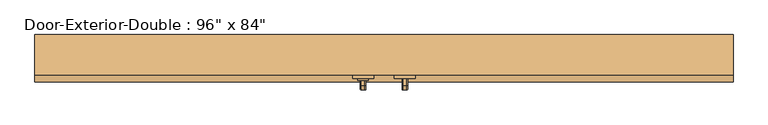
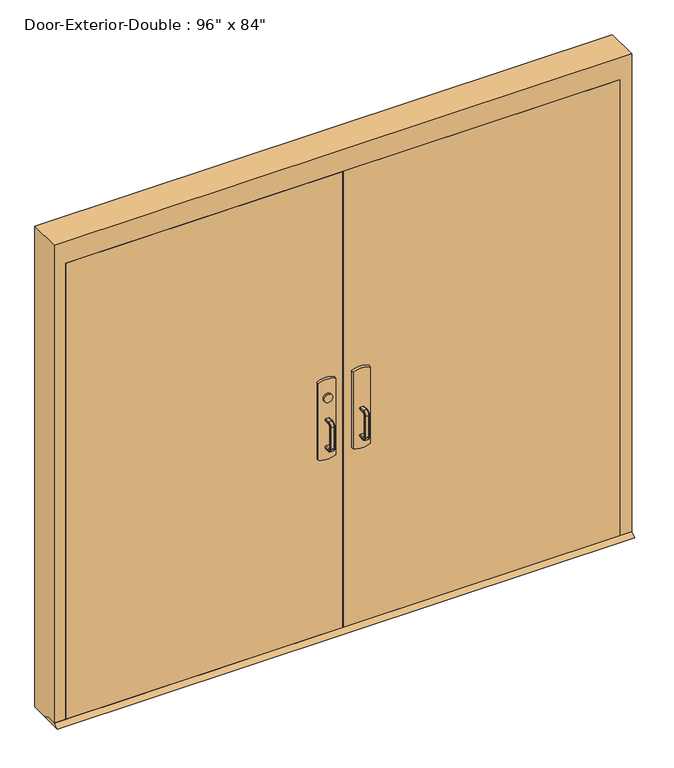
"""IFC4 building model written with IfcOpenShell, lengths in millimetres: door geometry."""

from ifc_helpers import new_model, si_unit, point, frame, frame_2d, origin, place, context, project, spatial, polyline, circle_curve, ellipse_curve, trimmed, segment, composite_curve, outline, extrude, faceted_brep, source, transform, mapped, element, save
from ifc_brep_helpers import plane_surface, cylinder_surface, revolved_surface, advanced_brep


def door_381a2cf9(model_context):
    return source(origin(), model_context, "Body", "SolidModel", [
        extrude(outline(polyline([(-778.9333333, -74.6125), (-76.2, -74.6125), (-76.2, -80.9625), (-778.9333333, -80.9625), (-778.9333333, -74.6125)])), frame((0.0, 0.0, 990.6), z_axis=(0.0, 0.0, 1.0), x_axis=(1.0, 0.0, 0.0)), (0.0, 0.0, 1.0), 50.8),
        advanced_brep(
        [(-12.7, -80.9625, 1041.4), (-12.7, -80.9625, 990.6), (-76.2, -80.9625, 990.6), (-1130.3, -80.9625, 990.6), (-1130.3, -80.9625, 1041.4), (-76.2, -80.9625, 1041.4), (-1130.3, -112.7125, 1041.4), (-1130.3, -112.7125, 990.6), (-76.2, -112.7125, 990.6), (-76.2, -112.7125, 927.1), (-57.15, -112.7125, 908.05), (-31.75, -112.7125, 908.05), (-12.7, -112.7125, 927.1), (-12.7, -112.7125, 1104.9), (-31.75, -112.7125, 1123.95), (-57.15, -112.7125, 1123.95), (-76.2, -112.7125, 1104.9), (-76.2, -112.7125, 1041.4), (-76.2, -84.1377467, 1041.4), (-12.7, -84.1377467, 1041.4), (-12.7, -89.1479269, 1104.9), (-12.7, -89.1479269, 927.1), (-12.7, -84.1377467, 990.6), (-76.2, -84.1377467, 990.6), (-76.2, -89.1479269, 1104.9), (-76.2, -89.1479269, 927.1), (-31.75, -90.650981, 1123.95), (-57.15, -90.650981, 1123.95), (-57.15, -90.650981, 908.05), (-31.75, -90.650981, 908.05)],
        [
            (0, 1),
            (1, 2),
            (2, 3),
            (3, 4),
            (4, 5),
            (5, 0),
            (6, 7),
            (7, 8),
            (8, 9),
            (9, 10, circle_curve(frame((-57.15, -112.7125, 927.1), z_axis=(0.0, -1.0, 0.0), x_axis=(-1.0, 0.0, 0.0)), 19.05)),
            (10, 11),
            (11, 12, circle_curve(frame((-31.75, -112.7125, 927.1), z_axis=(0.0, -1.0, 0.0), x_axis=(-1.0, 0.0, 0.0)), 19.05)),
            (12, 13),
            (13, 14, circle_curve(frame((-31.75, -112.7125, 1104.9), z_axis=(0.0, -1.0, 0.0), x_axis=(-1.0, 0.0, 0.0)), 19.05)),
            (14, 15),
            (15, 16, circle_curve(frame((-57.15, -112.7125, 1104.9), z_axis=(0.0, -1.0, 0.0), x_axis=(-1.0, 0.0, 0.0)), 19.05)),
            (16, 17),
            (17, 6),
            (4, 6),
            (17, 18),
            (18, 19),
            (19, 0),
            (19, 20),
            (20, 13),
            (12, 21),
            (21, 22),
            (22, 1),
            (7, 3),
            (22, 23),
            (23, 8),
            (16, 24),
            (24, 18),
            (23, 25),
            (25, 9),
            (14, 26),
            (26, 27),
            (27, 15),
            (10, 28),
            (28, 29),
            (29, 11),
            (25, 28, ellipse_curve(frame((-57.15, -89.1479269, 927.1), z_axis=(0.0, -0.9969018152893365, 0.07865602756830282), x_axis=(0.0, 0.07865602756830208, 0.9969018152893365)), 19.1092038, 19.05)),
            (27, 24, ellipse_curve(frame((-57.15, -89.1479269, 1104.9), z_axis=(0.0, -0.9969018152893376, -0.07865602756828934), x_axis=(0.0, 0.078656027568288, -0.9969018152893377)), 19.1092038, 19.05)),
            (20, 26, ellipse_curve(frame((-31.75, -89.1479269, 1104.9), z_axis=(0.0, -0.9969018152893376, -0.07865602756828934), x_axis=(0.0, 0.078656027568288, -0.9969018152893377)), 19.1092038, 19.05)),
            (29, 21, ellipse_curve(frame((-31.75, -89.1479269, 927.1), z_axis=(0.0, -0.9969018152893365, 0.07865602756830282), x_axis=(0.0, 0.07865602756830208, 0.9969018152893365)), 19.1092038, 19.05)),
        ],
        [
            plane_surface(frame((-12.7, -80.9625, 1041.4), z_axis=(0.0, 1.0, 0.0), x_axis=(1.0, 0.0, 0.0))),
            plane_surface(frame((-12.7, -112.7125, 1041.4), z_axis=(0.0, -1.0, 0.0), x_axis=(-1.0, 0.0, 0.0))),
            plane_surface(frame((-1130.3, -80.9625, 1041.4), z_axis=(0.0, 0.0, 1.0), x_axis=(0.0, -1.0, 0.0))),
            plane_surface(frame((-12.7, -80.9625, 1041.4), z_axis=(1.0, 0.0, 0.0), x_axis=(0.0, -1.0, 0.0))),
            plane_surface(frame((-12.7, -80.9625, 990.6), z_axis=(0.0, 0.0, -1.0), x_axis=(0.0, -1.0, 0.0))),
            plane_surface(frame((-1130.3, -80.9625, 990.6), z_axis=(-1.0, 0.0, 0.0), x_axis=(0.0, -1.0, 0.0))),
            plane_surface(frame((-76.2, -84.1377467, 927.1), z_axis=(-1.0, 0.0, 0.0), x_axis=(0.0, -1.0, 0.0))),
            plane_surface(frame((-57.15, -84.1377467, 1123.95), z_axis=(0.0, 0.0, 1.0), x_axis=(0.0, -1.0, 0.0))),
            plane_surface(frame((-31.75, -84.1377467, 908.05), z_axis=(0.0, 0.0, -1.0), x_axis=(0.0, -1.0, 0.0))),
            cylinder_surface(frame((-57.15, -112.7125, 927.1), z_axis=(0.0, 1.0, 0.0), x_axis=(-1.0, 0.0, 0.0)), 19.05),
            cylinder_surface(frame((-57.15, -112.7125, 1104.9), z_axis=(0.0, 1.0, 0.0), x_axis=(-1.0, 0.0, 0.0)), 19.05),
            cylinder_surface(frame((-31.75, -112.7125, 1104.9), z_axis=(0.0, 1.0, 0.0), x_axis=(-1.0, 0.0, 0.0)), 19.05),
            cylinder_surface(frame((-31.75, -112.7125, 927.1), z_axis=(0.0, 1.0, 0.0), x_axis=(-1.0, 0.0, 0.0)), 19.05),
            plane_surface(frame((-76.2, -84.1377467, 1041.4), z_axis=(0.0, 0.9969018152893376, 0.07865602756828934), x_axis=(1.0, 0.0, 0.0))),
            plane_surface(frame((-76.2, -90.650981, 908.05), z_axis=(0.0, 0.9969018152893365, -0.07865602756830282), x_axis=(1.0, 0.0, 0.0))),
        ],
        [
            (0, [[1, 2, 3, 4, 5, 6]]),
            (1, [[7, 8, 9, 10, 11, 12, 13, 14, 15, 16, 17, 18]]),
            (2, [[19, -18, 20, 21, 22, -6, -5]]),
            (3, [[-1, -22, 23, 24, -13, 25, 26, 27]]),
            (4, [[28, -3, -2, -27, 29, 30, -8]]),
            (5, [[-4, -28, -7, -19]]),
            (6, [[-17, 31, 32, -20]]),
            (6, [[-9, -30, 33, 34]]),
            (7, [[-15, 35, 36, 37]]),
            (8, [[-11, 38, 39, 40]]),
            (9, [[-10, -34, 41, -38]]),
            (10, [[-16, -37, 42, -31]]),
            (11, [[-14, -24, 43, -35]]),
            (12, [[-12, -40, 44, -25]]),
            (13, [[-21, -32, -42, -36, -43, -23]]),
            (14, [[-26, -44, -39, -41, -33, -29]]),
        ],
    ),
        extrude(outline(polyline([(-157.1625, 12.7), (-112.7125, 12.7), (-87.3125, 0.0), (-182.5625, 0.0), (-157.1625, 12.7)])), frame((-1270.0, 0.0, 0.0), z_axis=(1.0, 0.0, 0.0), x_axis=(0.0, 1.0, 0.0)), (0.0, 0.0, 1.0), 2540.0),
        extrude(outline(polyline([(778.9333333, -74.6125), (778.9333333, -80.9625), (76.2, -80.9625), (76.2, -74.6125), (778.9333333, -74.6125)])), frame((0.0, 0.0, 990.6), z_axis=(0.0, 0.0, 1.0), x_axis=(1.0, 0.0, 0.0)), (0.0, 0.0, 1.0), 50.8),
        advanced_brep(
        [(12.7, -80.9625, 1041.4), (76.2, -80.9625, 1041.4), (1130.3, -80.9625, 1041.4), (1130.3, -80.9625, 990.6), (76.2, -80.9625, 990.6), (12.7, -80.9625, 990.6), (1130.3, -112.7125, 1041.4), (76.2, -112.7125, 1041.4), (76.2, -112.7125, 1104.9), (57.15, -112.7125, 1123.95), (31.75, -112.7125, 1123.95), (12.7, -112.7125, 1104.9), (12.7, -112.7125, 927.1), (31.75, -112.7125, 908.05), (57.15, -112.7125, 908.05), (76.2, -112.7125, 927.1), (76.2, -112.7125, 990.6), (1130.3, -112.7125, 990.6), (12.7, -84.1377467, 1041.4), (76.2, -84.1377467, 1041.4), (12.7, -84.1377467, 990.6), (12.7, -89.1479269, 927.1), (12.7, -89.1479269, 1104.9), (76.2, -84.1377467, 990.6), (76.2, -89.1479269, 1104.9), (76.2, -89.1479269, 927.1), (57.15, -90.650981, 1123.95), (31.75, -90.650981, 1123.95), (31.75, -90.650981, 908.05), (57.15, -90.650981, 908.05)],
        [
            (0, 1),
            (1, 2),
            (2, 3),
            (3, 4),
            (4, 5),
            (5, 0),
            (6, 7),
            (7, 8),
            (8, 9, circle_curve(frame((57.15, -112.7125, 1104.9), z_axis=(0.0, -1.0, 0.0), x_axis=(1.0, 0.0, 0.0)), 19.05)),
            (9, 10),
            (10, 11, circle_curve(frame((31.75, -112.7125, 1104.9), z_axis=(0.0, -1.0, 0.0), x_axis=(1.0, 0.0, 0.0)), 19.05)),
            (11, 12),
            (12, 13, circle_curve(frame((31.75, -112.7125, 927.1), z_axis=(0.0, -1.0, 0.0), x_axis=(1.0, 0.0, 0.0)), 19.05)),
            (13, 14),
            (14, 15, circle_curve(frame((57.15, -112.7125, 927.1), z_axis=(0.0, -1.0, 0.0), x_axis=(1.0, 0.0, 0.0)), 19.05)),
            (15, 16),
            (16, 17),
            (17, 6),
            (0, 18),
            (18, 19),
            (19, 7),
            (6, 2),
            (5, 20),
            (20, 21),
            (21, 12),
            (11, 22),
            (22, 18),
            (16, 23),
            (23, 20),
            (3, 17),
            (19, 24),
            (24, 8),
            (15, 25),
            (25, 23),
            (9, 26),
            (26, 27),
            (27, 10),
            (13, 28),
            (28, 29),
            (29, 14),
            (29, 25, ellipse_curve(frame((57.15, -89.1479269, 927.1), z_axis=(0.0, -0.9969018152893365, 0.07865602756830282), x_axis=(0.0, 0.07865602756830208, 0.9969018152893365)), 19.1092038, 19.05)),
            (24, 26, ellipse_curve(frame((57.15, -89.1479269, 1104.9), z_axis=(0.0, -0.9969018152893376, -0.07865602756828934), x_axis=(0.0, 0.078656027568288, -0.9969018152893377)), 19.1092038, 19.05)),
            (27, 22, ellipse_curve(frame((31.75, -89.1479269, 1104.9), z_axis=(0.0, -0.9969018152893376, -0.07865602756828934), x_axis=(0.0, 0.078656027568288, -0.9969018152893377)), 19.1092038, 19.05)),
            (21, 28, ellipse_curve(frame((31.75, -89.1479269, 927.1), z_axis=(0.0, -0.9969018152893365, 0.07865602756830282), x_axis=(0.0, 0.07865602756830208, 0.9969018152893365)), 19.1092038, 19.05)),
        ],
        [
            plane_surface(frame((12.7, -80.9625, 1041.4), z_axis=(0.0, 1.0, 0.0), x_axis=(-1.0, 0.0, 0.0))),
            plane_surface(frame((12.7, -112.7125, 1041.4), z_axis=(0.0, -1.0, 0.0), x_axis=(1.0, 0.0, 0.0))),
            plane_surface(frame((1130.3, -80.9625, 1041.4), z_axis=(0.0, 0.0, 1.0), x_axis=(0.0, -1.0, 0.0))),
            plane_surface(frame((12.7, -80.9625, 1041.4), z_axis=(-1.0, 0.0, 0.0), x_axis=(0.0, -1.0, 0.0))),
            plane_surface(frame((12.7, -80.9625, 990.6), z_axis=(0.0, 0.0, -1.0), x_axis=(0.0, -1.0, 0.0))),
            plane_surface(frame((1130.3, -80.9625, 990.6), z_axis=(1.0, 0.0, 0.0), x_axis=(0.0, -1.0, 0.0))),
            plane_surface(frame((76.2, -84.1377467, 927.1), z_axis=(1.0, 0.0, 0.0), x_axis=(0.0, -1.0, 0.0))),
            plane_surface(frame((57.15, -84.1377467, 1123.95), z_axis=(0.0, 0.0, 1.0), x_axis=(0.0, -1.0, 0.0))),
            plane_surface(frame((31.75, -84.1377467, 908.05), z_axis=(0.0, 0.0, -1.0), x_axis=(0.0, -1.0, 0.0))),
            cylinder_surface(frame((57.15, -112.7125, 927.1), z_axis=(0.0, 1.0, 0.0), x_axis=(1.0, 0.0, 0.0)), 19.05),
            cylinder_surface(frame((57.15, -112.7125, 1104.9), z_axis=(0.0, 1.0, 0.0), x_axis=(1.0, 0.0, 0.0)), 19.05),
            cylinder_surface(frame((31.75, -112.7125, 1104.9), z_axis=(0.0, 1.0, 0.0), x_axis=(1.0, 0.0, 0.0)), 19.05),
            cylinder_surface(frame((31.75, -112.7125, 927.1), z_axis=(0.0, 1.0, 0.0), x_axis=(1.0, 0.0, 0.0)), 19.05),
            plane_surface(frame((76.2, -84.1377467, 1041.4), z_axis=(0.0, 0.9969018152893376, 0.07865602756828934), x_axis=(-1.0, 0.0, 0.0))),
            plane_surface(frame((76.2, -90.650981, 908.05), z_axis=(0.0, 0.9969018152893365, -0.07865602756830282), x_axis=(-1.0, 0.0, 0.0))),
        ],
        [
            (0, [[1, 2, 3, 4, 5, 6]]),
            (1, [[7, 8, 9, 10, 11, 12, 13, 14, 15, 16, 17, 18]]),
            (2, [[-2, -1, 19, 20, 21, -7, 22]]),
            (3, [[23, 24, 25, -12, 26, 27, -19, -6]]),
            (4, [[-17, 28, 29, -23, -5, -4, 30]]),
            (5, [[-22, -18, -30, -3]]),
            (6, [[-21, 31, 32, -8]]),
            (6, [[33, 34, -28, -16]]),
            (7, [[35, 36, 37, -10]]),
            (8, [[38, 39, 40, -14]]),
            (9, [[-40, 41, -33, -15]]),
            (10, [[-32, 42, -35, -9]]),
            (11, [[-37, 43, -26, -11]]),
            (12, [[-25, 44, -38, -13]]),
            (13, [[-27, -43, -36, -42, -31, -20]]),
            (14, [[-29, -34, -41, -39, -44, -24]]),
        ],
    ),
        advanced_brep(
        [(66.2, -169.8625, 1017.190625), (69.771875, -169.8625, 1020.7625), (82.628125, -169.8625, 1020.7625), (86.2, -169.8625, 1017.190625), (86.2, -169.8625, 1014.8090406), (82.6284594, -169.8625, 1011.2375), (69.771875, -169.8625, 1011.2375), (66.2, -169.8625, 1014.809375), (66.2, -169.8625, 887.809375), (66.2, -169.8625, 890.190625), (69.771875, -169.8625, 893.7625), (82.6284594, -169.8625, 893.7625), (86.2, -169.8625, 890.1909594), (86.2, -169.8625, 887.809375), (82.628125, -169.8625, 884.2375), (69.771875, -169.8625, 884.2375), (66.2, -195.2625, 1014.809375), (66.2, -206.771875, 1003.3), (66.2, -206.771875, 901.7), (66.2, -195.2625, 890.190625), (66.2, -195.2625, 887.809375), (66.2, -209.153125, 901.7), (66.2, -209.153125, 1003.3), (66.2, -195.2625, 1017.190625), (69.771875, -195.2625, 1011.2375), (82.6284594, -195.2625, 1011.2375), (86.2, -195.2625, 1014.8090406), (86.2, -195.2625, 1017.190625), (86.2, -209.153125, 1003.3), (86.2, -209.153125, 901.7), (86.2, -195.2625, 887.809375), (86.2, -195.2625, 890.1909594), (86.2, -206.7715406, 901.7), (86.2, -206.7715406, 1003.3), (82.628125, -195.2625, 1020.7625), (69.771875, -195.2625, 1020.7625), (69.771875, -203.2, 1003.3), (82.6284594, -203.2, 1003.3), (82.628125, -212.725, 1003.3), (69.771875, -212.725, 1003.3), (69.771875, -203.2, 901.7), (82.6284594, -203.2, 901.7), (82.628125, -212.725, 901.7), (69.771875, -212.725, 901.7), (69.771875, -195.2625, 893.7625), (82.6284594, -195.2625, 893.7625), (82.628125, -195.2625, 884.2375), (69.771875, -195.2625, 884.2375)],
        [
            (0, 1, circle_curve(frame((69.771875, -169.8625, 1017.190625), z_axis=(0.0, 1.0, 0.0), x_axis=(0.0, 0.0, 1.0)), 3.571875)),
            (1, 2),
            (2, 3, circle_curve(frame((82.628125, -169.8625, 1017.190625), z_axis=(0.0, 1.0, 0.0), x_axis=(0.0, 0.0, 1.0)), 3.571875)),
            (3, 4),
            (4, 5, circle_curve(frame((82.6284594, -169.8625, 1014.8090406), z_axis=(0.0, 1.0, 0.0), x_axis=(0.0, 0.0, 1.0)), 3.5715406)),
            (5, 6),
            (6, 7, circle_curve(frame((69.771875, -169.8625, 1014.809375), z_axis=(0.0, 1.0, 0.0), x_axis=(0.0, 0.0, 1.0)), 3.571875)),
            (7, 0),
            (8, 9),
            (9, 10, circle_curve(frame((69.771875, -169.8625, 890.190625), z_axis=(0.0, 1.0, 0.0), x_axis=(0.0, 0.0, -1.0)), 3.571875)),
            (10, 11),
            (11, 12, circle_curve(frame((82.6284594, -169.8625, 890.1909594), z_axis=(0.0, 1.0, 0.0), x_axis=(0.0, 0.0, -1.0)), 3.5715406)),
            (12, 13),
            (13, 14, circle_curve(frame((82.628125, -169.8625, 887.809375), z_axis=(0.0, 1.0, 0.0), x_axis=(0.0, 0.0, -1.0)), 3.571875)),
            (14, 15),
            (15, 8, circle_curve(frame((69.771875, -169.8625, 887.809375), z_axis=(0.0, 1.0, 0.0), x_axis=(0.0, 0.0, -1.0)), 3.571875)),
            (7, 16),
            (16, 17, circle_curve(frame((66.2, -195.2625, 1003.3), z_axis=(1.0, 0.0, 0.0), x_axis=(0.0, 0.0, 1.0)), 11.509375)),
            (17, 18),
            (18, 19, circle_curve(frame((66.2, -195.2625, 901.7), z_axis=(1.0, 0.0, 0.0), x_axis=(0.0, -1.0, 0.0)), 11.509375)),
            (19, 9),
            (8, 20),
            (20, 21, circle_curve(frame((66.2, -195.2625, 901.7), z_axis=(-1.0, 0.0, 0.0), x_axis=(0.0, -1.0, 0.0)), 13.890625)),
            (21, 22),
            (22, 23, circle_curve(frame((66.2, -195.2625, 1003.3), z_axis=(-1.0, 0.0, 0.0), x_axis=(0.0, 0.0, 1.0)), 13.890625)),
            (23, 0),
            (6, 24),
            (24, 16, circle_curve(frame((69.771875, -195.2625, 1014.809375), z_axis=(0.0, 1.0, 0.0), x_axis=(0.0, 0.0, 1.0)), 3.571875)),
            (5, 25),
            (25, 24),
            (4, 26),
            (26, 25, circle_curve(frame((82.6284594, -195.2625, 1014.8090406), z_axis=(0.0, 1.0, 0.0), x_axis=(0.0, 0.0, 1.0)), 3.5715406)),
            (3, 27),
            (27, 28, circle_curve(frame((86.2, -195.2625, 1003.3), z_axis=(1.0, 0.0, 0.0), x_axis=(0.0, 0.0, 1.0)), 13.890625)),
            (28, 29),
            (29, 30, circle_curve(frame((86.2, -195.2625, 901.7), z_axis=(1.0, 0.0, 0.0), x_axis=(0.0, -1.0, 0.0)), 13.890625)),
            (30, 13),
            (12, 31),
            (31, 32, circle_curve(frame((86.2, -195.2625, 901.7), z_axis=(-1.0, 0.0, 0.0), x_axis=(0.0, -1.0, 0.0)), 11.5090406)),
            (32, 33),
            (33, 26, circle_curve(frame((86.2, -195.2625, 1003.3), z_axis=(-1.0, 0.0, 0.0), x_axis=(0.0, 0.0, 1.0)), 11.5090406)),
            (2, 34),
            (34, 27, circle_curve(frame((82.628125, -195.2625, 1017.190625), z_axis=(0.0, 1.0, 0.0), x_axis=(0.0, 0.0, 1.0)), 3.571875)),
            (1, 35),
            (35, 34),
            (23, 35, circle_curve(frame((69.771875, -195.2625, 1017.190625), z_axis=(0.0, 1.0, 0.0), x_axis=(0.0, 0.0, 1.0)), 3.571875)),
            (36, 17, circle_curve(frame((69.771875, -206.771875, 1003.3), z_axis=(0.0, 0.0, 1.0), x_axis=(0.0, -1.0, 0.0)), 3.571875)),
            (24, 36, circle_curve(frame((69.771875, -195.2625, 1003.3), z_axis=(1.0, 0.0, 0.0), x_axis=(0.0, 0.0, 1.0)), 7.9375)),
            (37, 36),
            (25, 37, circle_curve(frame((82.6284594, -195.2625, 1003.3), z_axis=(1.0, 0.0, 0.0), x_axis=(0.0, 0.0, 1.0)), 7.9375)),
            (33, 37, circle_curve(frame((82.6284594, -206.7715406, 1003.3), z_axis=(0.0, 0.0, 1.0), x_axis=(0.0, -1.0, 0.0)), 3.5715406)),
            (38, 28, circle_curve(frame((82.628125, -209.153125, 1003.3), z_axis=(0.0, 0.0, 1.0), x_axis=(0.0, -1.0, 0.0)), 3.571875)),
            (34, 38, circle_curve(frame((82.628125, -195.2625, 1003.3), z_axis=(1.0, 0.0, 0.0), x_axis=(0.0, 0.0, 1.0)), 17.4625)),
            (39, 38),
            (35, 39, circle_curve(frame((69.771875, -195.2625, 1003.3), z_axis=(1.0, 0.0, 0.0), x_axis=(0.0, 0.0, 1.0)), 17.4625)),
            (22, 39, circle_curve(frame((69.771875, -209.153125, 1003.3), z_axis=(0.0, 0.0, 1.0), x_axis=(0.0, -1.0, 0.0)), 3.571875)),
            (36, 40),
            (40, 18, circle_curve(frame((69.771875, -206.771875, 901.7), z_axis=(0.0, 0.0, 1.0), x_axis=(0.0, -1.0, 0.0)), 3.571875)),
            (37, 41),
            (41, 40),
            (32, 41, circle_curve(frame((82.6284594, -206.7715406, 901.7), z_axis=(0.0, 0.0, 1.0), x_axis=(0.0, -1.0, 0.0)), 3.5715406)),
            (38, 42),
            (42, 29, circle_curve(frame((82.628125, -209.153125, 901.7), z_axis=(0.0, 0.0, 1.0), x_axis=(0.0, -1.0, 0.0)), 3.571875)),
            (39, 43),
            (43, 42),
            (21, 43, circle_curve(frame((69.771875, -209.153125, 901.7), z_axis=(0.0, 0.0, 1.0), x_axis=(0.0, -1.0, 0.0)), 3.571875)),
            (44, 19, circle_curve(frame((69.771875, -195.2625, 890.190625), z_axis=(0.0, -1.0, 0.0), x_axis=(0.0, 0.0, -1.0)), 3.571875)),
            (40, 44, circle_curve(frame((69.771875, -195.2625, 901.7), z_axis=(1.0, 0.0, 0.0), x_axis=(0.0, -1.0, 0.0)), 7.9375)),
            (45, 44),
            (41, 45, circle_curve(frame((82.6284594, -195.2625, 901.7), z_axis=(1.0, 0.0, 0.0), x_axis=(0.0, -1.0, 0.0)), 7.9375)),
            (31, 45, circle_curve(frame((82.6284594, -195.2625, 890.1909594), z_axis=(0.0, -1.0, 0.0), x_axis=(0.0, 0.0, -1.0)), 3.5715406)),
            (46, 30, circle_curve(frame((82.628125, -195.2625, 887.809375), z_axis=(0.0, -1.0, 0.0), x_axis=(0.0, 0.0, -1.0)), 3.571875)),
            (42, 46, circle_curve(frame((82.628125, -195.2625, 901.7), z_axis=(1.0, 0.0, 0.0), x_axis=(0.0, -1.0, 0.0)), 17.4625)),
            (47, 46),
            (43, 47, circle_curve(frame((69.771875, -195.2625, 901.7), z_axis=(1.0, 0.0, 0.0), x_axis=(0.0, -1.0, 0.0)), 17.4625)),
            (20, 47, circle_curve(frame((69.771875, -195.2625, 887.809375), z_axis=(0.0, -1.0, 0.0), x_axis=(0.0, 0.0, -1.0)), 3.571875)),
            (44, 10),
            (45, 11),
            (46, 14),
            (47, 15),
        ],
        [
            plane_surface(frame((76.2, -169.8625, 1016.0), z_axis=(0.0, 1.0, 0.0), x_axis=(1.0, 0.0, 0.0))),
            plane_surface(frame((76.2, -169.8625, 889.0), z_axis=(0.0, 1.0, 0.0), x_axis=(1.0, 0.0, 0.0))),
            plane_surface(frame((66.2, -169.8625, 1017.190625), z_axis=(-1.0, 0.0, 0.0), x_axis=(0.0, -1.0, 0.0))),
            cylinder_surface(frame((69.771875, -169.8625, 1014.809375), z_axis=(0.0, 1.0, 0.0), x_axis=(0.0, 0.0, 1.0)), 3.571875),
            plane_surface(frame((69.771875, -169.8625, 1011.2375), z_axis=(0.0, 0.0, -1.0), x_axis=(0.0, -1.0, 0.0))),
            cylinder_surface(frame((82.6284594, -169.8625, 1014.8090406), z_axis=(0.0, 1.0, 0.0), x_axis=(0.0, 0.0, 1.0)), 3.5715406),
            plane_surface(frame((86.2, -169.8625, 1014.8090406), z_axis=(1.0, 0.0, 0.0), x_axis=(0.0, -1.0, 0.0))),
            cylinder_surface(frame((82.628125, -169.8625, 1017.190625), z_axis=(0.0, 1.0, 0.0), x_axis=(0.0, 0.0, 1.0)), 3.571875),
            plane_surface(frame((82.628125, -169.8625, 1020.7625), z_axis=(0.0, 0.0, 1.0), x_axis=(0.0, -1.0, 0.0))),
            cylinder_surface(frame((69.771875, -169.8625, 1017.190625), z_axis=(0.0, 1.0, 0.0), x_axis=(0.0, 0.0, 1.0)), 3.571875),
            revolved_surface(trimmed(ellipse_curve(frame((69.771875, -195.2625, 1014.809375), z_axis=(0.0, -1.0, 0.0), x_axis=(0.0, 0.0, 1.0)), 3.571875, 3.571875), [point((66.2, -195.2625, 1014.809375))], [point((69.771875, -195.2625, 1011.2375))], True, "CARTESIAN"), (76.2, -195.2625, 1003.3), (-1.0, 0.0, 0.0)),
            revolved_surface(polyline([(69.771875, -195.2625, 1011.2375), (82.6284594, -195.2625, 1011.2375)]), (76.2, -195.2625, 1003.3), (-1.0, 0.0, 0.0)),
            revolved_surface(trimmed(ellipse_curve(frame((82.6284594, -195.2625, 1014.8090406), z_axis=(0.0, -1.0, 0.0), x_axis=(0.0, 0.0, 1.0)), 3.5715406, 3.5715406), [point((82.6284594, -195.2625, 1011.2375))], [point((86.2, -195.2625, 1014.8090406))], True, "CARTESIAN"), (76.2, -195.2625, 1003.3), (-1.0, 0.0, 0.0)),
            revolved_surface(trimmed(ellipse_curve(frame((82.628125, -195.2625, 1017.190625), z_axis=(0.0, -1.0, 0.0), x_axis=(0.0, 0.0, 1.0)), 3.571875, 3.571875), [point((86.2, -195.2625, 1017.190625))], [point((82.628125, -195.2625, 1020.7625))], True, "CARTESIAN"), (76.2, -195.2625, 1003.3), (-1.0, 0.0, 0.0)),
            cylinder_surface(frame((76.2, -195.2625, 1003.3), z_axis=(-1.0, 0.0, 0.0), x_axis=(0.0, 0.0, 1.0)), 17.4625),
            revolved_surface(trimmed(ellipse_curve(frame((69.771875, -195.2625, 1017.190625), z_axis=(0.0, -1.0, 0.0), x_axis=(0.0, 0.0, 1.0)), 3.571875, 3.571875), [point((69.771875, -195.2625, 1020.7625))], [point((66.2, -195.2625, 1017.190625))], True, "CARTESIAN"), (76.2, -195.2625, 1003.3), (-1.0, 0.0, 0.0)),
            cylinder_surface(frame((69.771875, -206.771875, 1003.3), z_axis=(0.0, 0.0, 1.0), x_axis=(0.0, -1.0, 0.0)), 3.571875),
            plane_surface(frame((69.771875, -203.2, 1003.3), z_axis=(0.0, 1.0, 0.0), x_axis=(0.0, 0.0, -1.0))),
            cylinder_surface(frame((82.6284594, -206.7715406, 1003.3), z_axis=(0.0, 0.0, 1.0), x_axis=(0.0, -1.0, 0.0)), 3.5715406),
            cylinder_surface(frame((82.628125, -209.153125, 1003.3), z_axis=(0.0, 0.0, 1.0), x_axis=(0.0, -1.0, 0.0)), 3.571875),
            plane_surface(frame((82.628125, -212.725, 1003.3), z_axis=(0.0, -1.0, 0.0), x_axis=(0.0, 0.0, -1.0))),
            cylinder_surface(frame((69.771875, -209.153125, 1003.3), z_axis=(0.0, 0.0, 1.0), x_axis=(0.0, -1.0, 0.0)), 3.571875),
            revolved_surface(trimmed(ellipse_curve(frame((69.771875, -206.771875, 901.7), z_axis=(0.0, 0.0, -1.0), x_axis=(0.0, -1.0, 0.0)), 3.571875, 3.571875), [point((66.2, -206.771875, 901.7))], [point((69.771875, -203.2, 901.7))], True, "CARTESIAN"), (76.2, -195.2625, 901.7), (-1.0, 0.0, 0.0)),
            revolved_surface(polyline([(69.771875, -203.2, 901.7), (82.6284594, -203.2, 901.7)]), (76.2, -195.2625, 901.7), (-1.0, 0.0, 0.0)),
            revolved_surface(trimmed(ellipse_curve(frame((82.6284594, -206.7715406, 901.7), z_axis=(0.0, 0.0, -1.0), x_axis=(0.0, -1.0, 0.0)), 3.5715406, 3.5715406), [point((82.6284594, -203.2, 901.7))], [point((86.2, -206.7715406, 901.7))], True, "CARTESIAN"), (76.2, -195.2625, 901.7), (-1.0, 0.0, 0.0)),
            revolved_surface(trimmed(ellipse_curve(frame((82.628125, -209.153125, 901.7), z_axis=(0.0, 0.0, -1.0), x_axis=(0.0, -1.0, 0.0)), 3.571875, 3.571875), [point((86.2, -209.153125, 901.7))], [point((82.628125, -212.725, 901.7))], True, "CARTESIAN"), (76.2, -195.2625, 901.7), (-1.0, 0.0, 0.0)),
            cylinder_surface(frame((76.2, -195.2625, 901.7), z_axis=(-1.0, 0.0, 0.0), x_axis=(0.0, -1.0, 0.0)), 17.4625),
            revolved_surface(trimmed(ellipse_curve(frame((69.771875, -209.153125, 901.7), z_axis=(0.0, 0.0, -1.0), x_axis=(0.0, -1.0, 0.0)), 3.571875, 3.571875), [point((69.771875, -212.725, 901.7))], [point((66.2, -209.153125, 901.7))], True, "CARTESIAN"), (76.2, -195.2625, 901.7), (-1.0, 0.0, 0.0)),
            cylinder_surface(frame((69.771875, -195.2625, 890.190625), z_axis=(0.0, -1.0, 0.0), x_axis=(0.0, 0.0, -1.0)), 3.571875),
            plane_surface(frame((69.771875, -195.2625, 893.7625), z_axis=(0.0, 0.0, 1.0), x_axis=(0.0, 1.0, 0.0))),
            cylinder_surface(frame((82.6284594, -195.2625, 890.1909594), z_axis=(0.0, -1.0, 0.0), x_axis=(0.0, 0.0, -1.0)), 3.5715406),
            cylinder_surface(frame((82.628125, -195.2625, 887.809375), z_axis=(0.0, -1.0, 0.0), x_axis=(0.0, 0.0, -1.0)), 3.571875),
            plane_surface(frame((82.628125, -195.2625, 884.2375), z_axis=(0.0, 0.0, -1.0), x_axis=(0.0, 1.0, 0.0))),
            cylinder_surface(frame((69.771875, -195.2625, 887.809375), z_axis=(0.0, -1.0, 0.0), x_axis=(0.0, 0.0, -1.0)), 3.571875),
        ],
        [
            (0, [[1, 2, 3, 4, 5, 6, 7, 8]]),
            (1, [[9, 10, 11, 12, 13, 14, 15, 16]]),
            (2, [[17, 18, 19, 20, 21, -9, 22, 23, 24, 25, 26, -8]]),
            (3, [[27, 28, -17, -7]]),
            (4, [[29, 30, -27, -6]]),
            (5, [[31, 32, -29, -5]]),
            (6, [[33, 34, 35, 36, 37, -13, 38, 39, 40, 41, -31, -4]]),
            (7, [[42, 43, -33, -3]]),
            (8, [[44, 45, -42, -2]]),
            (9, [[-26, 46, -44, -1]]),
            (10, [[47, -18, -28, 48]]),
            (11, [[49, -48, -30, 50]]),
            (12, [[51, -50, -32, -41]]),
            (13, [[52, -34, -43, 53]]),
            (14, [[54, -53, -45, 55]]),
            (15, [[56, -55, -46, -25]]),
            (16, [[57, 58, -19, -47]]),
            (17, [[59, 60, -57, -49]]),
            (18, [[-40, 61, -59, -51]]),
            (19, [[62, 63, -35, -52]]),
            (20, [[64, 65, -62, -54]]),
            (21, [[-24, 66, -64, -56]]),
            (22, [[67, -20, -58, 68]]),
            (23, [[69, -68, -60, 70]]),
            (24, [[71, -70, -61, -39]]),
            (25, [[72, -36, -63, 73]]),
            (26, [[74, -73, -65, 75]]),
            (27, [[76, -75, -66, -23]]),
            (28, [[77, -10, -21, -67]]),
            (29, [[78, -11, -77, -69]]),
            (30, [[-38, -12, -78, -71]]),
            (31, [[79, -14, -37, -72]]),
            (32, [[80, -15, -79, -74]]),
            (33, [[-22, -16, -80, -76]]),
        ],
    ),
        extrude(outline(composite_curve([segment(trimmed(circle_curve(frame_2d((1113.0338574, 76.2)), 89.3016225), [point((1193.8, 114.3))], [point((1193.8, 38.1))], False, "CARTESIAN"), True, "CONTINUOUS"), segment(polyline([(1193.8, 38.1), (838.2, 38.1)]), True, "CONTINUOUS"), segment(trimmed(circle_curve(frame_2d((918.9661426, 76.2)), 89.3016225), [point((838.2, 38.1))], [point((838.2, 114.3))], False, "CARTESIAN"), True, "CONTINUOUS"), segment(polyline([(838.2, 114.3), (1193.8, 114.3)]), True, "CONTINUOUS")], self_intersect=False)), frame((0.0, -169.8625, 0.0), z_axis=(0.0, 1.0, 0.0), x_axis=(0.0, 0.0, 1.0)), (0.0, 0.0, 1.0), 12.7),
        advanced_brep(
        [(-86.2, -169.8625, 1017.190625), (-82.628125, -169.8625, 1020.7625), (-69.771875, -169.8625, 1020.7625), (-66.2, -169.8625, 1017.190625), (-66.2, -169.8625, 1014.8090406), (-69.7715406, -169.8625, 1011.2375), (-82.628125, -169.8625, 1011.2375), (-86.2, -169.8625, 1014.809375), (-86.2, -169.8625, 887.809375), (-86.2, -169.8625, 890.190625), (-82.628125, -169.8625, 893.7625), (-69.7715406, -169.8625, 893.7625), (-66.2, -169.8625, 890.1909594), (-66.2, -169.8625, 887.809375), (-69.771875, -169.8625, 884.2375), (-82.628125, -169.8625, 884.2375), (-86.2, -195.2625, 1014.809375), (-86.2, -206.771875, 1003.3), (-86.2, -206.771875, 901.7), (-86.2, -195.2625, 890.190625), (-86.2, -195.2625, 887.809375), (-86.2, -209.153125, 901.7), (-86.2, -209.153125, 1003.3), (-86.2, -195.2625, 1017.190625), (-82.628125, -195.2625, 1011.2375), (-69.7715406, -195.2625, 1011.2375), (-66.2, -195.2625, 1014.8090406), (-66.2, -195.2625, 1017.190625), (-66.2, -209.153125, 1003.3), (-66.2, -209.153125, 901.7), (-66.2, -195.2625, 887.809375), (-66.2, -195.2625, 890.1909594), (-66.2, -206.7715406, 901.7), (-66.2, -206.7715406, 1003.3), (-69.771875, -195.2625, 1020.7625), (-82.628125, -195.2625, 1020.7625), (-82.628125, -203.2, 1003.3), (-69.7715406, -203.2, 1003.3), (-69.771875, -212.725, 1003.3), (-82.628125, -212.725, 1003.3), (-82.628125, -203.2, 901.7), (-69.7715406, -203.2, 901.7), (-69.771875, -212.725, 901.7), (-82.628125, -212.725, 901.7), (-82.628125, -195.2625, 893.7625), (-69.7715406, -195.2625, 893.7625), (-69.771875, -195.2625, 884.2375), (-82.628125, -195.2625, 884.2375)],
        [
            (0, 1, circle_curve(frame((-82.628125, -169.8625, 1017.190625), z_axis=(0.0, 1.0, 0.0), x_axis=(0.0, 0.0, 1.0)), 3.571875)),
            (1, 2),
            (2, 3, circle_curve(frame((-69.771875, -169.8625, 1017.190625), z_axis=(0.0, 1.0, 0.0), x_axis=(0.0, 0.0, 1.0)), 3.571875)),
            (3, 4),
            (4, 5, circle_curve(frame((-69.7715406, -169.8625, 1014.8090406), z_axis=(0.0, 1.0, 0.0), x_axis=(0.0, 0.0, 1.0)), 3.5715406)),
            (5, 6),
            (6, 7, circle_curve(frame((-82.628125, -169.8625, 1014.809375), z_axis=(0.0, 1.0, 0.0), x_axis=(0.0, 0.0, 1.0)), 3.571875)),
            (7, 0),
            (8, 9),
            (9, 10, circle_curve(frame((-82.628125, -169.8625, 890.190625), z_axis=(0.0, 1.0, 0.0), x_axis=(0.0, 0.0, -1.0)), 3.571875)),
            (10, 11),
            (11, 12, circle_curve(frame((-69.7715406, -169.8625, 890.1909594), z_axis=(0.0, 1.0, 0.0), x_axis=(0.0, 0.0, -1.0)), 3.5715406)),
            (12, 13),
            (13, 14, circle_curve(frame((-69.771875, -169.8625, 887.809375), z_axis=(0.0, 1.0, 0.0), x_axis=(0.0, 0.0, -1.0)), 3.571875)),
            (14, 15),
            (15, 8, circle_curve(frame((-82.628125, -169.8625, 887.809375), z_axis=(0.0, 1.0, 0.0), x_axis=(0.0, 0.0, -1.0)), 3.571875)),
            (7, 16),
            (16, 17, circle_curve(frame((-86.2, -195.2625, 1003.3), z_axis=(1.0, 0.0, 0.0), x_axis=(0.0, 0.0, 1.0)), 11.509375)),
            (17, 18),
            (18, 19, circle_curve(frame((-86.2, -195.2625, 901.7), z_axis=(1.0, 0.0, 0.0), x_axis=(0.0, -1.0, 0.0)), 11.509375)),
            (19, 9),
            (8, 20),
            (20, 21, circle_curve(frame((-86.2, -195.2625, 901.7), z_axis=(-1.0, 0.0, 0.0), x_axis=(0.0, -1.0, 0.0)), 13.890625)),
            (21, 22),
            (22, 23, circle_curve(frame((-86.2, -195.2625, 1003.3), z_axis=(-1.0, 0.0, 0.0), x_axis=(0.0, 0.0, 1.0)), 13.890625)),
            (23, 0),
            (6, 24),
            (24, 16, circle_curve(frame((-82.628125, -195.2625, 1014.809375), z_axis=(0.0, 1.0, 0.0), x_axis=(0.0, 0.0, 1.0)), 3.571875)),
            (5, 25),
            (25, 24),
            (4, 26),
            (26, 25, circle_curve(frame((-69.7715406, -195.2625, 1014.8090406), z_axis=(0.0, 1.0, 0.0), x_axis=(0.0, 0.0, 1.0)), 3.5715406)),
            (3, 27),
            (27, 28, circle_curve(frame((-66.2, -195.2625, 1003.3), z_axis=(1.0, 0.0, 0.0), x_axis=(0.0, 0.0, 1.0)), 13.890625)),
            (28, 29),
            (29, 30, circle_curve(frame((-66.2, -195.2625, 901.7), z_axis=(1.0, 0.0, 0.0), x_axis=(0.0, -1.0, 0.0)), 13.890625)),
            (30, 13),
            (12, 31),
            (31, 32, circle_curve(frame((-66.2, -195.2625, 901.7), z_axis=(-1.0, 0.0, 0.0), x_axis=(0.0, -1.0, 0.0)), 11.5090406)),
            (32, 33),
            (33, 26, circle_curve(frame((-66.2, -195.2625, 1003.3), z_axis=(-1.0, 0.0, 0.0), x_axis=(0.0, 0.0, 1.0)), 11.5090406)),
            (2, 34),
            (34, 27, circle_curve(frame((-69.771875, -195.2625, 1017.190625), z_axis=(0.0, 1.0, 0.0), x_axis=(0.0, 0.0, 1.0)), 3.571875)),
            (1, 35),
            (35, 34),
            (23, 35, circle_curve(frame((-82.628125, -195.2625, 1017.190625), z_axis=(0.0, 1.0, 0.0), x_axis=(0.0, 0.0, 1.0)), 3.571875)),
            (36, 17, circle_curve(frame((-82.628125, -206.771875, 1003.3), z_axis=(0.0, 0.0, 1.0), x_axis=(0.0, -1.0, 0.0)), 3.571875)),
            (24, 36, circle_curve(frame((-82.628125, -195.2625, 1003.3), z_axis=(1.0, 0.0, 0.0), x_axis=(0.0, 0.0, 1.0)), 7.9375)),
            (37, 36),
            (25, 37, circle_curve(frame((-69.7715406, -195.2625, 1003.3), z_axis=(1.0, 0.0, 0.0), x_axis=(0.0, 0.0, 1.0)), 7.9375)),
            (33, 37, circle_curve(frame((-69.7715406, -206.7715406, 1003.3), z_axis=(0.0, 0.0, 1.0), x_axis=(0.0, -1.0, 0.0)), 3.5715406)),
            (38, 28, circle_curve(frame((-69.771875, -209.153125, 1003.3), z_axis=(0.0, 0.0, 1.0), x_axis=(0.0, -1.0, 0.0)), 3.571875)),
            (34, 38, circle_curve(frame((-69.771875, -195.2625, 1003.3), z_axis=(1.0, 0.0, 0.0), x_axis=(0.0, 0.0, 1.0)), 17.4625)),
            (39, 38),
            (35, 39, circle_curve(frame((-82.628125, -195.2625, 1003.3), z_axis=(1.0, 0.0, 0.0), x_axis=(0.0, 0.0, 1.0)), 17.4625)),
            (22, 39, circle_curve(frame((-82.628125, -209.153125, 1003.3), z_axis=(0.0, 0.0, 1.0), x_axis=(0.0, -1.0, 0.0)), 3.571875)),
            (36, 40),
            (40, 18, circle_curve(frame((-82.628125, -206.771875, 901.7), z_axis=(0.0, 0.0, 1.0), x_axis=(0.0, -1.0, 0.0)), 3.571875)),
            (37, 41),
            (41, 40),
            (32, 41, circle_curve(frame((-69.7715406, -206.7715406, 901.7), z_axis=(0.0, 0.0, 1.0), x_axis=(0.0, -1.0, 0.0)), 3.5715406)),
            (38, 42),
            (42, 29, circle_curve(frame((-69.771875, -209.153125, 901.7), z_axis=(0.0, 0.0, 1.0), x_axis=(0.0, -1.0, 0.0)), 3.571875)),
            (39, 43),
            (43, 42),
            (21, 43, circle_curve(frame((-82.628125, -209.153125, 901.7), z_axis=(0.0, 0.0, 1.0), x_axis=(0.0, -1.0, 0.0)), 3.571875)),
            (44, 19, circle_curve(frame((-82.628125, -195.2625, 890.190625), z_axis=(0.0, -1.0, 0.0), x_axis=(0.0, 0.0, -1.0)), 3.571875)),
            (40, 44, circle_curve(frame((-82.628125, -195.2625, 901.7), z_axis=(1.0, 0.0, 0.0), x_axis=(0.0, -1.0, 0.0)), 7.9375)),
            (45, 44),
            (41, 45, circle_curve(frame((-69.7715406, -195.2625, 901.7), z_axis=(1.0, 0.0, 0.0), x_axis=(0.0, -1.0, 0.0)), 7.9375)),
            (31, 45, circle_curve(frame((-69.7715406, -195.2625, 890.1909594), z_axis=(0.0, -1.0, 0.0), x_axis=(0.0, 0.0, -1.0)), 3.5715406)),
            (46, 30, circle_curve(frame((-69.771875, -195.2625, 887.809375), z_axis=(0.0, -1.0, 0.0), x_axis=(0.0, 0.0, -1.0)), 3.571875)),
            (42, 46, circle_curve(frame((-69.771875, -195.2625, 901.7), z_axis=(1.0, 0.0, 0.0), x_axis=(0.0, -1.0, 0.0)), 17.4625)),
            (47, 46),
            (43, 47, circle_curve(frame((-82.628125, -195.2625, 901.7), z_axis=(1.0, 0.0, 0.0), x_axis=(0.0, -1.0, 0.0)), 17.4625)),
            (20, 47, circle_curve(frame((-82.628125, -195.2625, 887.809375), z_axis=(0.0, -1.0, 0.0), x_axis=(0.0, 0.0, -1.0)), 3.571875)),
            (44, 10),
            (45, 11),
            (46, 14),
            (47, 15),
        ],
        [
            plane_surface(frame((-76.2, -169.8625, 1016.0), z_axis=(0.0, 1.0, 0.0), x_axis=(1.0, 0.0, 0.0))),
            plane_surface(frame((-76.2, -169.8625, 889.0), z_axis=(0.0, 1.0, 0.0), x_axis=(1.0, 0.0, 0.0))),
            plane_surface(frame((-86.2, -169.8625, 1017.190625), z_axis=(-1.0, 0.0, 0.0), x_axis=(0.0, -1.0, 0.0))),
            cylinder_surface(frame((-82.628125, -169.8625, 1014.809375), z_axis=(0.0, 1.0, 0.0), x_axis=(0.0, 0.0, 1.0)), 3.571875),
            plane_surface(frame((-82.628125, -169.8625, 1011.2375), z_axis=(0.0, 0.0, -1.0), x_axis=(0.0, -1.0, 0.0))),
            cylinder_surface(frame((-69.7715406, -169.8625, 1014.8090406), z_axis=(0.0, 1.0, 0.0), x_axis=(0.0, 0.0, 1.0)), 3.5715406),
            plane_surface(frame((-66.2, -169.8625, 1014.8090406), z_axis=(1.0, 0.0, 0.0), x_axis=(0.0, -1.0, 0.0))),
            cylinder_surface(frame((-69.771875, -169.8625, 1017.190625), z_axis=(0.0, 1.0, 0.0), x_axis=(0.0, 0.0, 1.0)), 3.571875),
            plane_surface(frame((-69.771875, -169.8625, 1020.7625), z_axis=(0.0, 0.0, 1.0), x_axis=(0.0, -1.0, 0.0))),
            cylinder_surface(frame((-82.628125, -169.8625, 1017.190625), z_axis=(0.0, 1.0, 0.0), x_axis=(0.0, 0.0, 1.0)), 3.571875),
            revolved_surface(trimmed(ellipse_curve(frame((-82.628125, -195.2625, 1014.809375), z_axis=(0.0, -1.0, 0.0), x_axis=(0.0, 0.0, 1.0)), 3.571875, 3.571875), [point((-86.2, -195.2625, 1014.809375))], [point((-82.628125, -195.2625, 1011.2375))], True, "CARTESIAN"), (-76.2, -195.2625, 1003.3), (-1.0, 0.0, 0.0)),
            revolved_surface(polyline([(-82.628125, -195.2625, 1011.2375), (-69.7715406, -195.2625, 1011.2375)]), (-76.2, -195.2625, 1003.3), (-1.0, 0.0, 0.0)),
            revolved_surface(trimmed(ellipse_curve(frame((-69.7715406, -195.2625, 1014.8090406), z_axis=(0.0, -1.0, 0.0), x_axis=(0.0, 0.0, 1.0)), 3.5715406, 3.5715406), [point((-69.7715406, -195.2625, 1011.2375))], [point((-66.2, -195.2625, 1014.8090406))], True, "CARTESIAN"), (-76.2, -195.2625, 1003.3), (-1.0, 0.0, 0.0)),
            revolved_surface(trimmed(ellipse_curve(frame((-69.771875, -195.2625, 1017.190625), z_axis=(0.0, -1.0, 0.0), x_axis=(0.0, 0.0, 1.0)), 3.571875, 3.571875), [point((-66.2, -195.2625, 1017.190625))], [point((-69.771875, -195.2625, 1020.7625))], True, "CARTESIAN"), (-76.2, -195.2625, 1003.3), (-1.0, 0.0, 0.0)),
            cylinder_surface(frame((-76.2, -195.2625, 1003.3), z_axis=(-1.0, 0.0, 0.0), x_axis=(0.0, 0.0, 1.0)), 17.4625),
            revolved_surface(trimmed(ellipse_curve(frame((-82.628125, -195.2625, 1017.190625), z_axis=(0.0, -1.0, 0.0), x_axis=(0.0, 0.0, 1.0)), 3.571875, 3.571875), [point((-82.628125, -195.2625, 1020.7625))], [point((-86.2, -195.2625, 1017.190625))], True, "CARTESIAN"), (-76.2, -195.2625, 1003.3), (-1.0, 0.0, 0.0)),
            cylinder_surface(frame((-82.628125, -206.771875, 1003.3), z_axis=(0.0, 0.0, 1.0), x_axis=(0.0, -1.0, 0.0)), 3.571875),
            plane_surface(frame((-82.628125, -203.2, 1003.3), z_axis=(0.0, 1.0, 0.0), x_axis=(0.0, 0.0, -1.0))),
            cylinder_surface(frame((-69.7715406, -206.7715406, 1003.3), z_axis=(0.0, 0.0, 1.0), x_axis=(0.0, -1.0, 0.0)), 3.5715406),
            cylinder_surface(frame((-69.771875, -209.153125, 1003.3), z_axis=(0.0, 0.0, 1.0), x_axis=(0.0, -1.0, 0.0)), 3.571875),
            plane_surface(frame((-69.771875, -212.725, 1003.3), z_axis=(0.0, -1.0, 0.0), x_axis=(0.0, 0.0, -1.0))),
            cylinder_surface(frame((-82.628125, -209.153125, 1003.3), z_axis=(0.0, 0.0, 1.0), x_axis=(0.0, -1.0, 0.0)), 3.571875),
            revolved_surface(trimmed(ellipse_curve(frame((-82.628125, -206.771875, 901.7), z_axis=(0.0, 0.0, -1.0), x_axis=(0.0, -1.0, 0.0)), 3.571875, 3.571875), [point((-86.2, -206.771875, 901.7))], [point((-82.628125, -203.2, 901.7))], True, "CARTESIAN"), (-76.2, -195.2625, 901.7), (-1.0, 0.0, 0.0)),
            revolved_surface(polyline([(-82.628125, -203.2, 901.7), (-69.7715406, -203.2, 901.7)]), (-76.2, -195.2625, 901.7), (-1.0, 0.0, 0.0)),
            revolved_surface(trimmed(ellipse_curve(frame((-69.7715406, -206.7715406, 901.7), z_axis=(0.0, 0.0, -1.0), x_axis=(0.0, -1.0, 0.0)), 3.5715406, 3.5715406), [point((-69.7715406, -203.2, 901.7))], [point((-66.2, -206.7715406, 901.7))], True, "CARTESIAN"), (-76.2, -195.2625, 901.7), (-1.0, 0.0, 0.0)),
            revolved_surface(trimmed(ellipse_curve(frame((-69.771875, -209.153125, 901.7), z_axis=(0.0, 0.0, -1.0), x_axis=(0.0, -1.0, 0.0)), 3.571875, 3.571875), [point((-66.2, -209.153125, 901.7))], [point((-69.771875, -212.725, 901.7))], True, "CARTESIAN"), (-76.2, -195.2625, 901.7), (-1.0, 0.0, 0.0)),
            cylinder_surface(frame((-76.2, -195.2625, 901.7), z_axis=(-1.0, 0.0, 0.0), x_axis=(0.0, -1.0, 0.0)), 17.4625),
            revolved_surface(trimmed(ellipse_curve(frame((-82.628125, -209.153125, 901.7), z_axis=(0.0, 0.0, -1.0), x_axis=(0.0, -1.0, 0.0)), 3.571875, 3.571875), [point((-82.628125, -212.725, 901.7))], [point((-86.2, -209.153125, 901.7))], True, "CARTESIAN"), (-76.2, -195.2625, 901.7), (-1.0, 0.0, 0.0)),
            cylinder_surface(frame((-82.628125, -195.2625, 890.190625), z_axis=(0.0, -1.0, 0.0), x_axis=(0.0, 0.0, -1.0)), 3.571875),
            plane_surface(frame((-82.628125, -195.2625, 893.7625), z_axis=(0.0, 0.0, 1.0), x_axis=(0.0, 1.0, 0.0))),
            cylinder_surface(frame((-69.7715406, -195.2625, 890.1909594), z_axis=(0.0, -1.0, 0.0), x_axis=(0.0, 0.0, -1.0)), 3.5715406),
            cylinder_surface(frame((-69.771875, -195.2625, 887.809375), z_axis=(0.0, -1.0, 0.0), x_axis=(0.0, 0.0, -1.0)), 3.571875),
            plane_surface(frame((-69.771875, -195.2625, 884.2375), z_axis=(0.0, 0.0, -1.0), x_axis=(0.0, 1.0, 0.0))),
            cylinder_surface(frame((-82.628125, -195.2625, 887.809375), z_axis=(0.0, -1.0, 0.0), x_axis=(0.0, 0.0, -1.0)), 3.571875),
        ],
        [
            (0, [[1, 2, 3, 4, 5, 6, 7, 8]]),
            (1, [[9, 10, 11, 12, 13, 14, 15, 16]]),
            (2, [[17, 18, 19, 20, 21, -9, 22, 23, 24, 25, 26, -8]]),
            (3, [[27, 28, -17, -7]]),
            (4, [[29, 30, -27, -6]]),
            (5, [[31, 32, -29, -5]]),
            (6, [[33, 34, 35, 36, 37, -13, 38, 39, 40, 41, -31, -4]]),
            (7, [[42, 43, -33, -3]]),
            (8, [[44, 45, -42, -2]]),
            (9, [[-26, 46, -44, -1]]),
            (10, [[47, -18, -28, 48]]),
            (11, [[49, -48, -30, 50]]),
            (12, [[51, -50, -32, -41]]),
            (13, [[52, -34, -43, 53]]),
            (14, [[54, -53, -45, 55]]),
            (15, [[56, -55, -46, -25]]),
            (16, [[57, 58, -19, -47]]),
            (17, [[59, 60, -57, -49]]),
            (18, [[-40, 61, -59, -51]]),
            (19, [[62, 63, -35, -52]]),
            (20, [[64, 65, -62, -54]]),
            (21, [[-24, 66, -64, -56]]),
            (22, [[67, -20, -58, 68]]),
            (23, [[69, -68, -60, 70]]),
            (24, [[71, -70, -61, -39]]),
            (25, [[72, -36, -63, 73]]),
            (26, [[74, -73, -65, 75]]),
            (27, [[76, -75, -66, -23]]),
            (28, [[77, -10, -21, -67]]),
            (29, [[78, -11, -77, -69]]),
            (30, [[-38, -12, -78, -71]]),
            (31, [[79, -14, -37, -72]]),
            (32, [[80, -15, -79, -74]]),
            (33, [[-22, -16, -80, -76]]),
        ],
    ),
        extrude(outline(composite_curve([segment(trimmed(circle_curve(frame_2d((1117.6, -76.2)), 19.0), [point((1117.6, -95.2))], [point((1117.6, -57.2))], False, "CARTESIAN"), True, "CONTINUOUS"), segment(trimmed(circle_curve(frame_2d((1117.6, -76.2)), 19.0), [point((1117.6, -57.2))], [point((1117.6, -95.2))], False, "CARTESIAN"), True, "CONTINUOUS")], self_intersect=False)), frame((0.0, -178.59375, 0.0), z_axis=(0.0, 1.0, 0.0), x_axis=(0.0, 0.0, 1.0)), (0.0, 0.0, 1.0), 8.73125),
        extrude(outline(composite_curve([segment(trimmed(circle_curve(frame_2d((1113.0338574, -76.2)), 89.3016225), [point((1193.8, -38.1))], [point((1193.8, -114.3))], False, "CARTESIAN"), True, "CONTINUOUS"), segment(polyline([(1193.8, -114.3), (838.2, -114.3)]), True, "CONTINUOUS"), segment(trimmed(circle_curve(frame_2d((918.9661426, -76.2)), 89.3016225), [point((838.2, -114.3))], [point((838.2, -38.1))], False, "CARTESIAN"), True, "CONTINUOUS"), segment(polyline([(838.2, -38.1), (1193.8, -38.1)]), True, "CONTINUOUS")], self_intersect=False)), frame((0.0, -169.8625, 0.0), z_axis=(0.0, 1.0, 0.0), x_axis=(0.0, 0.0, 1.0)), (0.0, 0.0, 1.0), 12.7),
        extrude(outline(polyline([(1219.2, -112.7125), (1219.2, -157.1625), (1.5875, -157.1625), (1.5875, -112.7125), (1219.2, -112.7125)])), frame((0.0, 0.0, 12.7), z_axis=(0.0, 0.0, 1.0), x_axis=(1.0, 0.0, 0.0)), (0.0, 0.0, 1.0), 2120.9),
        extrude(outline(polyline([(-1.5875, -112.7125), (-1.5875, -157.1625), (-1219.2, -157.1625), (-1219.2, -112.7125), (-1.5875, -112.7125)])), frame((0.0, 0.0, 12.7), z_axis=(0.0, 0.0, 1.0), x_axis=(1.0, 0.0, 0.0)), (0.0, 0.0, 1.0), 2120.9),
        faceted_brep([(1219.2, -107.95, 0.0), (1203.325, -107.95, 0.0), (1203.325, -60.325, 0.0), (1219.2, -60.325, 0.0), (1219.2, -11.1125, 0.0), (1270.0, -11.1125, 0.0), (1270.0, -157.1625, 0.0), (1219.2, -157.1625, 0.0), (1219.2, -157.1625, 2133.6), (1219.2, -107.95, 2133.6), (1270.0, -157.1625, 2235.2), (-1270.0, -157.1625, 2235.2), (-1270.0, -157.1625, 0.0), (-1219.2, -157.1625, 0.0), (-1219.2, -157.1625, 2133.6), (1270.0, -11.1125, 2235.2), (1219.2, -11.1125, 2133.6), (-1219.2, -11.1125, 2133.6), (-1219.2, -11.1125, 0.0), (-1270.0, -11.1125, 0.0), (-1270.0, -11.1125, 2235.2), (1219.2, -60.325, 2133.6), (1203.325, -60.325, 2117.725), (-1203.325, -60.325, 2117.725), (-1203.325, -60.325, 0.0), (-1219.2, -60.325, 0.0), (-1219.2, -60.325, 2133.6), (1203.325, -107.95, 2117.725), (-1219.2, -107.95, 2133.6), (-1219.2, -107.95, 0.0), (-1203.325, -107.95, 0.0), (-1203.325, -107.95, 2117.725)], [[[0, 1, 2, 3, 4, 5, 6, 7]], [[7, 8, 9, 0]], [[6, 10, 11, 12, 13, 14, 8, 7]], [[5, 15, 10, 6]], [[4, 16, 17, 18, 19, 20, 15, 5]], [[3, 21, 16, 4]], [[2, 22, 23, 24, 25, 26, 21, 3]], [[1, 27, 22, 2]], [[0, 9, 28, 29, 30, 31, 27, 1]], [[8, 14, 28, 9]], [[16, 21, 26, 17]], [[22, 27, 31, 23]], [[12, 19, 18, 25, 24, 30, 29, 13]], [[13, 29, 28, 14]], [[11, 20, 19, 12]], [[17, 26, 25, 18]], [[23, 31, 30, 24]], [[15, 20, 11, 10]]]),
    ])


if __name__ == "__main__":
    model = new_model("IFC4")
    model_context = context("Model", 3, world=origin())
    ifc_project = project(units=[si_unit("LENGTHUNIT", "METRE", prefix="MILLI")], contexts=[model_context])
    site = spatial("IfcSite", under=ifc_project)
    building = spatial("IfcBuilding", under=site)
    placement = place(None, origin())
    door_shape = door_381a2cf9(model_context)
    element("IfcDoor", 1, ObjectType="Door-Exterior-Double : 96\" x 84\"", at=placement, inside=building, context=model_context, shape_type="MappedRepresentation", body=[
        mapped(door_shape, transform((0.0, 0.0, 0.0), x_axis=(1.0, 0.0, 0.0), y_axis=(0.0, 1.0, 0.0), z_axis=(0.0, 0.0, 1.0))),
    ])
    save(model, "model.ifc")
